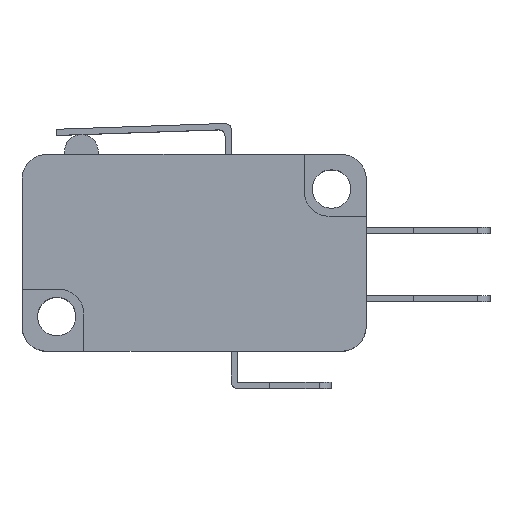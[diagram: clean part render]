
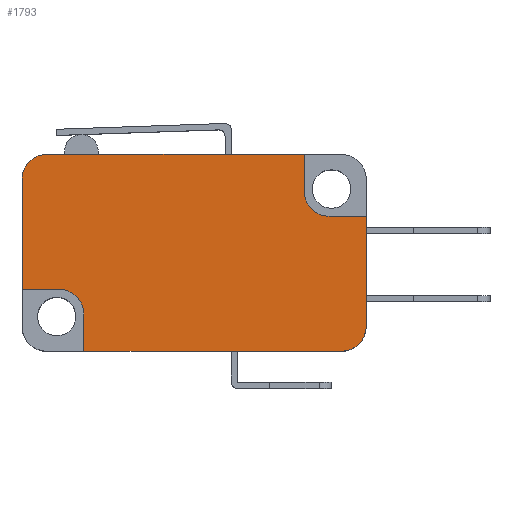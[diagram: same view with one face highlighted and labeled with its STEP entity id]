
A CAD part, top view. The second image highlights one B-rep face of the part: STEP entity #1793.
In plain terms, the highlighted planar face has unit normal (0, 0, 1).
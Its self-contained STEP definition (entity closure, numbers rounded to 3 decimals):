
#68=CIRCLE('',#1903,2.);
#72=CIRCLE('',#1910,2.);
#75=CIRCLE('',#1918,2.);
#77=CIRCLE('',#1924,2.);
#242=FACE_OUTER_BOUND('',#355,.T.);
#355=EDGE_LOOP('',(#1583,#1584,#1585,#1586,#1587,#1588,#1589,#1590,#1591,
#1592,#1593,#1594));
#395=LINE('',#2487,#590);
#403=LINE('',#2504,#598);
#520=LINE('',#2811,#715);
#527=LINE('',#2831,#722);
#530=LINE('',#2837,#725);
#537=LINE('',#2854,#732);
#539=LINE('',#2862,#734);
#540=LINE('',#2864,#735);
#590=VECTOR('',#2004,20.8);
#598=VECTOR('',#2014,20.8);
#715=VECTOR('',#2303,3.);
#722=VECTOR('',#2322,3.);
#725=VECTOR('',#2329,8.9);
#732=VECTOR('',#2350,8.9);
#734=VECTOR('',#2364,3.);
#735=VECTOR('',#2367,3.);
#779=VERTEX_POINT('',#2484);
#780=VERTEX_POINT('',#2486);
#786=VERTEX_POINT('',#2500);
#788=VERTEX_POINT('',#2503);
#887=VERTEX_POINT('',#2795);
#888=VERTEX_POINT('',#2797);
#892=VERTEX_POINT('',#2810);
#895=VERTEX_POINT('',#2817);
#896=VERTEX_POINT('',#2819);
#899=VERTEX_POINT('',#2830);
#900=VERTEX_POINT('',#2836);
#903=VERTEX_POINT('',#2853);
#951=EDGE_CURVE('',#780,#779,#395,.T.);
#959=EDGE_CURVE('',#788,#786,#403,.T.);
#1102=EDGE_CURVE('',#887,#888,#68,.F.);
#1109=EDGE_CURVE('',#892,#888,#520,.T.);
#1113=EDGE_CURVE('',#895,#896,#72,.F.);
#1119=EDGE_CURVE('',#899,#896,#527,.T.);
#1122=EDGE_CURVE('',#900,#899,#530,.T.);
#1126=EDGE_CURVE('',#900,#786,#75,.T.);
#1132=EDGE_CURVE('',#903,#892,#537,.T.);
#1134=EDGE_CURVE('',#903,#779,#77,.T.);
#1135=EDGE_CURVE('',#887,#788,#539,.T.);
#1136=EDGE_CURVE('',#895,#780,#540,.T.);
#1583=ORIENTED_EDGE('',*,*,#1126,.F.);
#1584=ORIENTED_EDGE('',*,*,#1122,.T.);
#1585=ORIENTED_EDGE('',*,*,#1119,.T.);
#1586=ORIENTED_EDGE('',*,*,#1113,.F.);
#1587=ORIENTED_EDGE('',*,*,#1136,.T.);
#1588=ORIENTED_EDGE('',*,*,#951,.T.);
#1589=ORIENTED_EDGE('',*,*,#1134,.F.);
#1590=ORIENTED_EDGE('',*,*,#1132,.T.);
#1591=ORIENTED_EDGE('',*,*,#1109,.T.);
#1592=ORIENTED_EDGE('',*,*,#1102,.F.);
#1593=ORIENTED_EDGE('',*,*,#1135,.T.);
#1594=ORIENTED_EDGE('',*,*,#959,.T.);
#1703=PLANE('',#1930);
#1793=ADVANCED_FACE('',(#242),#1703,.T.);
#1903=AXIS2_PLACEMENT_3D('',#2798,#2289,#2290);
#1910=AXIS2_PLACEMENT_3D('',#2820,#2310,#2311);
#1918=AXIS2_PLACEMENT_3D('',#2843,#2336,#2337);
#1924=AXIS2_PLACEMENT_3D('',#2857,#2354,#2355);
#1930=AXIS2_PLACEMENT_3D('',#2865,#2368,#2369);
#2004=DIRECTION('',(-1.,0.,0.));
#2014=DIRECTION('',(1.,0.,0.));
#2289=DIRECTION('center_axis',(0.,0.,-1.));
#2290=DIRECTION('ref_axis',(0.707,0.707,0.));
#2303=DIRECTION('',(1.,0.,0.));
#2310=DIRECTION('center_axis',(0.,0.,-1.));
#2311=DIRECTION('ref_axis',(-0.707,-0.707,0.));
#2322=DIRECTION('',(-1.,0.,0.));
#2329=DIRECTION('',(0.,1.,0.));
#2336=DIRECTION('center_axis',(0.,0.,-1.));
#2337=DIRECTION('ref_axis',(0.707,-0.707,0.));
#2350=DIRECTION('',(0.,-1.,0.));
#2354=DIRECTION('center_axis',(0.,0.,-1.));
#2355=DIRECTION('ref_axis',(-0.707,0.707,0.));
#2364=DIRECTION('',(0.,-1.,0.));
#2367=DIRECTION('',(0.,1.,0.));
#2368=DIRECTION('center_axis',(0.,0.,1.));
#2369=DIRECTION('ref_axis',(1.,0.,0.));
#2484=CARTESIAN_POINT('',(-11.9,7.95,5.));
#2486=CARTESIAN_POINT('',(8.9,7.95,5.));
#2487=CARTESIAN_POINT('',(-13.9,7.95,5.));
#2500=CARTESIAN_POINT('',(11.9,-7.95,5.));
#2503=CARTESIAN_POINT('',(-8.9,-7.95,5.));
#2504=CARTESIAN_POINT('',(13.9,-7.95,5.));
#2795=CARTESIAN_POINT('',(-8.9,-4.95,5.));
#2797=CARTESIAN_POINT('',(-10.9,-2.95,5.));
#2798=CARTESIAN_POINT('Origin',(-10.9,-4.95,5.));
#2810=CARTESIAN_POINT('',(-13.9,-2.95,5.));
#2811=CARTESIAN_POINT('',(-4.45,-2.95,5.));
#2817=CARTESIAN_POINT('',(8.9,4.95,5.));
#2819=CARTESIAN_POINT('',(10.9,2.95,5.));
#2820=CARTESIAN_POINT('Origin',(10.9,4.95,5.));
#2830=CARTESIAN_POINT('',(13.9,2.95,5.));
#2831=CARTESIAN_POINT('',(4.45,2.95,5.));
#2836=CARTESIAN_POINT('',(13.9,-5.95,5.));
#2837=CARTESIAN_POINT('',(13.9,7.95,5.));
#2843=CARTESIAN_POINT('Origin',(11.9,-5.95,5.));
#2853=CARTESIAN_POINT('',(-13.9,5.95,5.));
#2854=CARTESIAN_POINT('',(-13.9,-7.95,5.));
#2857=CARTESIAN_POINT('Origin',(-11.9,5.95,5.));
#2862=CARTESIAN_POINT('',(-8.9,-3.975,5.));
#2864=CARTESIAN_POINT('',(8.9,3.975,5.));
#2865=CARTESIAN_POINT('Origin',(0.,0.,5.));
